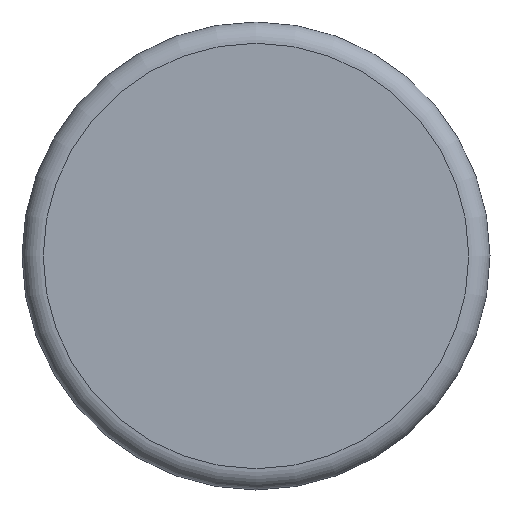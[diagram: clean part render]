
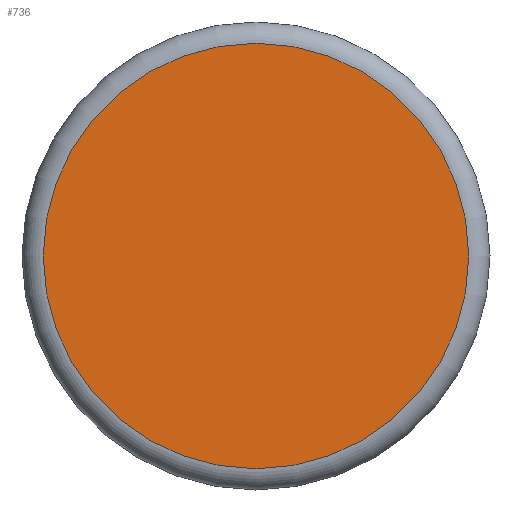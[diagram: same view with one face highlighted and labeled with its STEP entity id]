
A CAD part, front view. The second image highlights one B-rep face of the part: STEP entity #736.
In plain terms, the highlighted planar face has unit normal (0, -1, 0).
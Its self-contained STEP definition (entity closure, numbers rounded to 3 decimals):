
#238=FACE_OUTER_BOUND('',#287,.T.);
#287=EDGE_LOOP('',(#646,#647));
#296=CIRCLE('',#804,20.);
#297=CIRCLE('',#805,20.);
#365=VERTEX_POINT('',#1201);
#366=VERTEX_POINT('',#1202);
#460=EDGE_CURVE('',#365,#366,#296,.T.);
#461=EDGE_CURVE('',#366,#365,#297,.T.);
#646=ORIENTED_EDGE('',*,*,#460,.F.);
#647=ORIENTED_EDGE('',*,*,#461,.F.);
#697=PLANE('',#803);
#736=ADVANCED_FACE('',(#238),#697,.F.);
#803=AXIS2_PLACEMENT_3D('',#1200,#988,#989);
#804=AXIS2_PLACEMENT_3D('',#1203,#990,#991);
#805=AXIS2_PLACEMENT_3D('',#1204,#992,#993);
#988=DIRECTION('center_axis',(0.,1.,0.));
#989=DIRECTION('ref_axis',(0.,0.,1.));
#990=DIRECTION('center_axis',(0.,1.,0.));
#991=DIRECTION('ref_axis',(1.,0.,0.));
#992=DIRECTION('center_axis',(0.,1.,0.));
#993=DIRECTION('ref_axis',(1.,0.,0.));
#1200=CARTESIAN_POINT('Origin',(0.,0.,0.));
#1201=CARTESIAN_POINT('',(-20.,0.,0.));
#1202=CARTESIAN_POINT('',(0.,0.,-20.));
#1203=CARTESIAN_POINT('Origin',(0.,0.,0.));
#1204=CARTESIAN_POINT('Origin',(0.,0.,0.));
